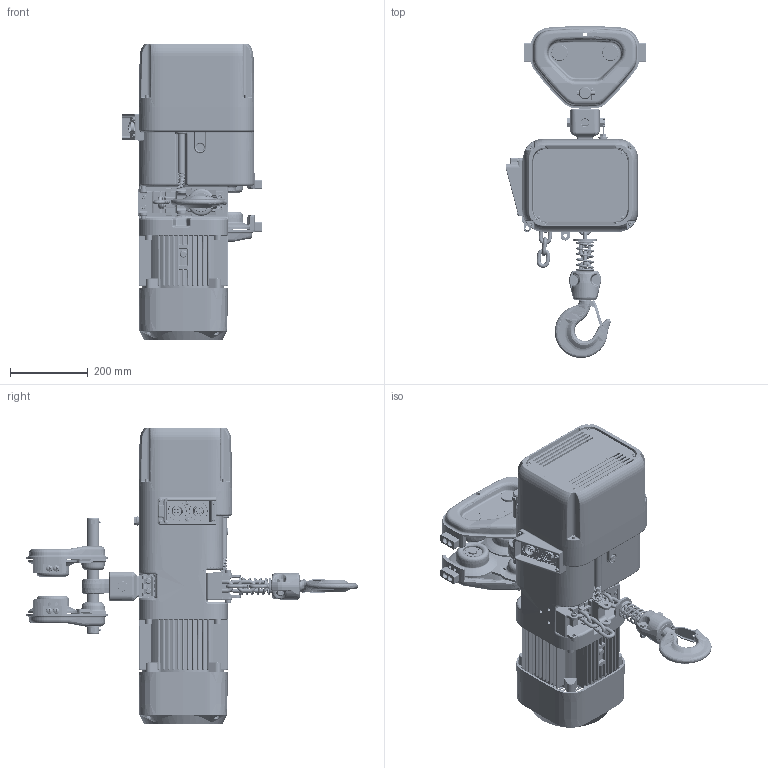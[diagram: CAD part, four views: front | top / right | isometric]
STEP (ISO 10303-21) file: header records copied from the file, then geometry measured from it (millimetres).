
FILE_DESCRIPTION (( 'STEP AP214' ), '1' );
FILE_NAME ('NER2P020SD.STEP', '2026-08-11T12:25:55', ( '' ), ( '' ), 'SwSTEP 2.0', 'SolidWorks 2026', '' );
FILE_SCHEMA (( 'AUTOMOTIVE_DESIGN' ));
Length unit declared in the file: millimetre
Products named in the file (72): NER2P020SD; 9091255_9091255; T7G115020; ER2ES1002; ER1ES9032; ER2BHM20I9A5; 9009432_9009432; ES088020L_ES088020; T6G156020; ER1BS9135; M8 X 30 MACHINE SCREW_M8 X 30 MACHINE SCREW; ER2ES9107_ER2ES9107; ES558003; T7GA0209142; MS561010; M8 LOCK NUT_M8 LOCK NUT; M7S004020; ER2ES9121; basic external retaining ring_am_9047120; ER2ES9337; ER2ES9105; ER2CS9357; ER2ES9186; T6GA0209103; ER2ES9015; E3S111003; T7AB101010; ER2EI2564; 9093427_9093427; T6G5102020; J1BY9-1003526_B18.2.3.1M - Hex cap screw, M10 x 1.5 x 35 --35C; single coil rectangular section spring washer_bsi_9012711; T6GA0209102; ER2ES2015; T7GA0205112; LCER2020NP_8 LINKS; T7AB0109101; ER2EI2523; E3S112003; T6GA0209113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
Assembly tree (139 placements, depth 5):
  NER2P020SD
    PTS2020_4" FLANGE
      T7GA0205112  x2
        T6GA0209112
        T6GA0209113
        T6GA0209103
        T7GA0209141
        T7GA0209142
      T6G5102020  x4
        T6GA0209102
        6304Z Bearing
      MS104020  x4
      basic external retaining ring_am_9047120  x4
      T7G115020
      T7G117020
      T6G800020P
      T6G156020  x2
      9009432_9009432  x2
      T7AB101010  x4
        T7AB0109101
        M8 NARROW FLAT WASHER_B18.22M - Plain washer, 8 mm, narrow
        M8 X 30 MACHINE SCREW_M8 X 30 MACHINE SCREW
        M8 LOCK NUT_M8 LOCK NUT
    NER2020SD_PERPENDICULAR MOUNT
      ER2EI2104
        ER2EI9104_ER2EI9104
        ER2EI9185_ER2EI9185
        J1AP2-4001212.SLDASM  x4
      ER2ES9103
      ER2ES9101
      ER2ES9105
      ER2ES9107_ER2ES9107
      9091255_9091255  x4
      90912116_90912116  x4
      E3S112003
      E3S111003
      ES127005S
      ER1BS9135
      ER2ES9121  x2
      J1BG10604024_J1BG10604024  x4
      ER2ES9186
      ER2ES9331
      single coil rectangular section spring washer_bsi_9012711  x4
      Socket Head Cap Screw_AM_B18.3.1M - 5 x 0.8 x 25 Hex SHCS -- 25NHX  x4
      ER2ES9338
      ER2ES9337
      ER2CS9357
      ER2ES1011
        ER2ES9011
        ER2ES1002
        ER2ES2015
          ER2ES9015  x2
          J1BY9-1003526_B18.2.3.1M - Hex cap screw, M10 x 1.5 x 35 --35C  x2
          J1WS011-20100_Rectangular section spring washer BS 4464 - 16 (Type B)  x2
          9093427_9093427  x2
      ER1DL9051
      ER1ES9054
      LCER2020NP_8 LINKS
        LCER2020NP  x8
      ER2EI4511
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Bounding box: 362.5 x 855.44 x 764.07 mm (x, y, z)
Volume: 35035607.9 mm3; surface area: 2975436.3 mm2
Topology: 165 solids, 182 shells, 9224 faces, 23602 edges, 14757 vertices
Faces by surface type: plane 3632, cylinder 3033, torus 840, bspline 778, cone 673, sphere 268
Entity records: 230919 total; most frequent: CARTESIAN_POINT 87500, ORIENTED_EDGE 29576, DIRECTION 28872, EDGE_CURVE 14790, AXIS2_PLACEMENT_3D 11207, VERTEX_POINT 9369, LINE 6458, VECTOR 6458
